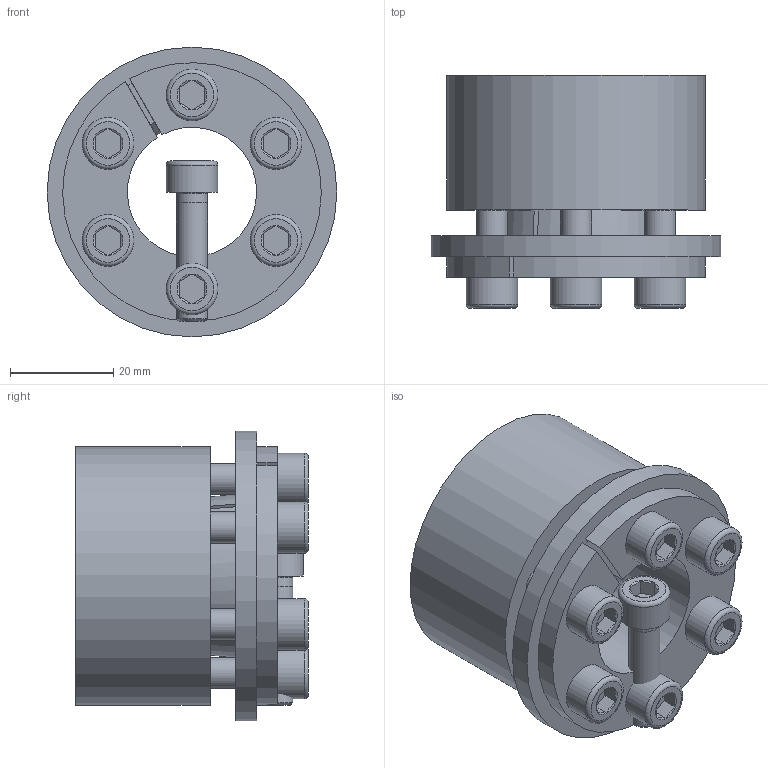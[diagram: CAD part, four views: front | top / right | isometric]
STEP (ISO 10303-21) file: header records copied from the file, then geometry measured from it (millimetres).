
FILE_DESCRIPTION( ( 'Unknown' ), '1' );
FILE_NAME( 'C:/Dokumente und Einstellungen/Sven/Desktop/homepage/cad - homepage/KBS71/KBS 71 - 25 x 50.stp', 'Unknown', ( 'Unknown' ), ( 'Unknown' ), 'XStep 1.0', 'Unknown', ' ' );
FILE_SCHEMA( ( 'automotive_design' ) );
Length unit declared in the file: millimetre
Products named in the file (3): Assem1; KBS 71 - 25 x 50; ISO EN DIN 4762 M6x25
Bounding box: 56 x 45 x 56 mm (x, y, z)
Volume: 101556.8 mm3; surface area: 44786.3 mm2
Topology: 9 solids, 9 shells, 247 faces, 545 edges, 328 vertices
Faces by surface type: plane 116, cylinder 60, cone 57, torus 14
Full cylindrical faces by diameter (mm): 5 x7, 6 x38, 10 x7, 56 x2
Entity records: 2071 total; most frequent: CARTESIAN_POINT 362, DIRECTION 319, ORIENTED_EDGE 260, AXIS2_PLACEMENT_3D 135, EDGE_CURVE 130, EDGE_LOOP 106, VERTEX_POINT 90, FACE_OUTER_BOUND 80
